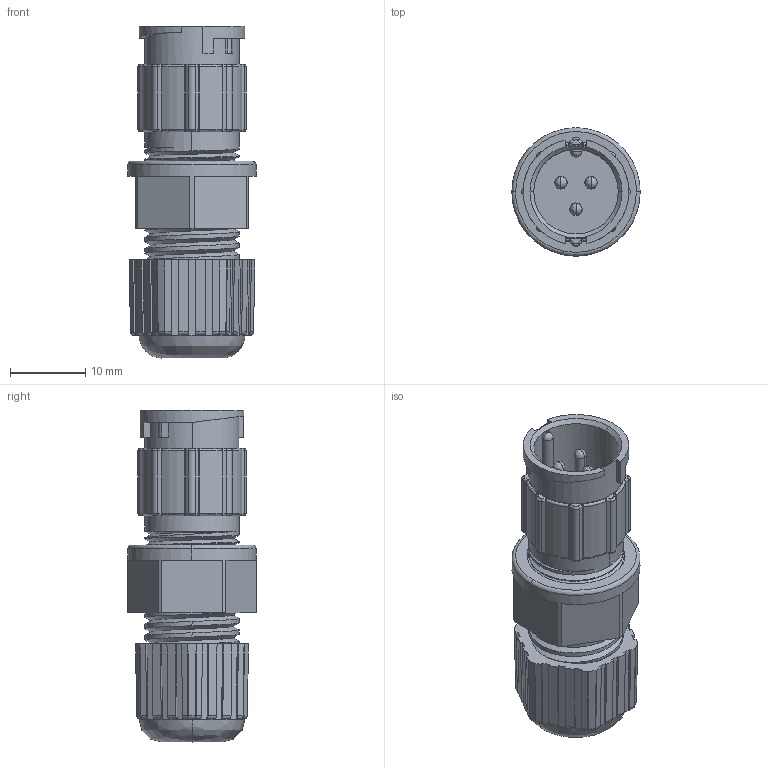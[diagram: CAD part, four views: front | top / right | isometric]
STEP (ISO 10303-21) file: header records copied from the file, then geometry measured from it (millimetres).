
FILE_DESCRIPTION (( 'STEP AP203' ), '1' );
FILE_NAME ('868-03A-103KIT.STEP', '2025-12-17T18:08:11', ( '' ), ( '' ), 'SwSTEP 2.0', 'SolidWorks 2020', '' );
FILE_SCHEMA (( 'CONFIG_CONTROL_DESIGN' ));
Length unit declared in the file: millimetre
Products named in the file (1): 868-03A-103KIT
Bounding box: 17 x 17 x 44 mm (x, y, z)
Volume: 4704.3 mm3; surface area: 5534.7 mm2
Topology: 1 solids, 1 shells, 563 faces, 1441 edges, 883 vertices
Faces by surface type: cylinder 203, plane 182, bspline 140, cone 38
Entity records: 30005 total; most frequent: CARTESIAN_POINT 17970, ORIENTED_EDGE 2856, DIRECTION 1986, EDGE_CURVE 1428, VERTEX_POINT 883, AXIS2_PLACEMENT_3D 735, EDGE_LOOP 583, ADVANCED_FACE 563
